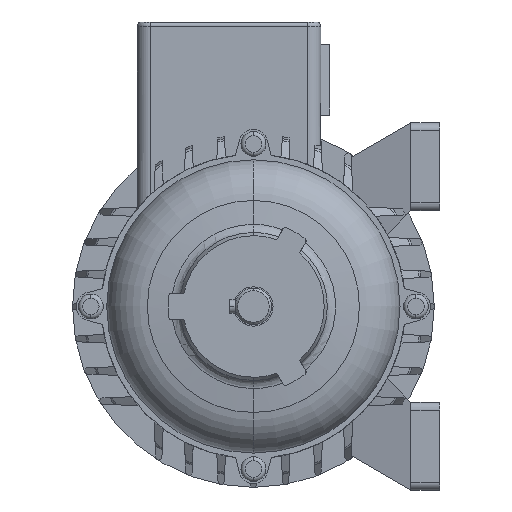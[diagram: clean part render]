
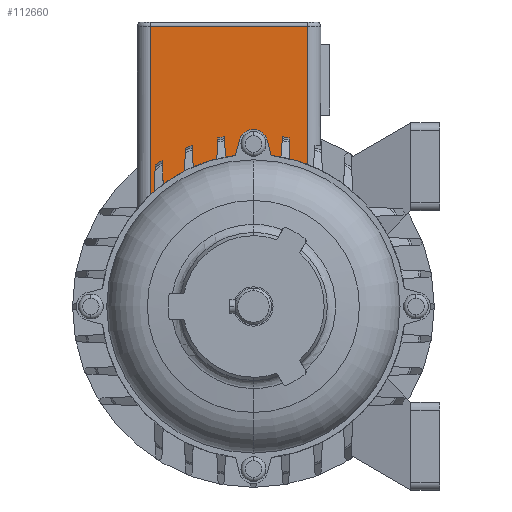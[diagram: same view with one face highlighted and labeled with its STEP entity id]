
A CAD part, left-side view. The second image highlights one B-rep face of the part: STEP entity #112660.
In plain terms, the highlighted planar face has unit normal (-1, 0, 0) as drawn and (0, 0, -1) by its records, which use the part's own axes.
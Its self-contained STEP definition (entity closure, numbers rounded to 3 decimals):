
#38200=CARTESIAN_POINT('',(-1399.744,-477.566,
13.8));
#38210=VERTEX_POINT('',#38200);
#38260=CARTESIAN_POINT('',(0.,-102.506,13.8));
#38270=DIRECTION('',(0.966,0.259,
0.));
#38280=VECTOR('',#38270,1.);
#38290=LINE('',#38260,#38280);
#38300=CARTESIAN_POINT('',(-1393.891,-475.998,
13.8));
#38310=VERTEX_POINT('',#38300);
#38320=EDGE_CURVE('',#38210,#38310,#38290,.T.);
#38600=CARTESIAN_POINT('',(-1413.391,-508.54,
13.8));
#38610=VERTEX_POINT('',#38600);
#38790=CARTESIAN_POINT('',(-1410.653,-505.107,
13.8));
#38800=VERTEX_POINT('',#38790);
#38830=CARTESIAN_POINT('',(-1457.334,-470.685,
13.8));
#38840=DIRECTION('',(0.,0.,-1.));
#38850=DIRECTION('',(-1.,0.,
0.));
#38860=AXIS2_PLACEMENT_3D('',#38830,#38840,#38850);
#38870=CIRCLE('',#38860,58.);
#38880=CARTESIAN_POINT('',(-1405.634,-496.974,
13.8));
#38890=VERTEX_POINT('',#38880);
#38900=EDGE_CURVE('',#38890,#38800,#38870,.T.);
#39130=CARTESIAN_POINT('',(-1404.081,-493.664,
13.8));
#39140=VERTEX_POINT('',#39130);
#39170=CARTESIAN_POINT('',(-1401.035,-484.626,
13.8));
#39180=VERTEX_POINT('',#39170);
#39190=EDGE_CURVE('',#39180,#39140,#38870,.T.);
#39420=CARTESIAN_POINT('',(-1400.328,-481.375,
13.8));
#39430=VERTEX_POINT('',#39420);
#39460=EDGE_CURVE('',#38210,#39430,#38870,.T.);
#41000=CARTESIAN_POINT('',(-1414.679,-509.985,
13.8));
#41010=VERTEX_POINT('',#41000);
#41040=EDGE_CURVE('',#38610,#41010,#38870,.T.);
#109750=CARTESIAN_POINT('',(-1399.735,-463.875,
13.8));
#109760=VERTEX_POINT('',#109750);
#109790=CARTESIAN_POINT('',(-1457.334,-470.685,
13.8));
#109800=DIRECTION('',(0.,0.,-1.));
#109810=DIRECTION('',(1.,0.,
0.));
#109820=AXIS2_PLACEMENT_3D('',#109790,#109800,#109810);
#109830=CIRCLE('',#109820,58.);
#109840=CARTESIAN_POINT('',(-1400.328,-459.996,
13.8));
#109850=VERTEX_POINT('',#109840);
#109860=EDGE_CURVE('',#109850,#109760,#109830,.T.);
#110090=CARTESIAN_POINT('',(-1401.035,-456.744,
13.8));
#110100=VERTEX_POINT('',#110090);
#110130=CARTESIAN_POINT('',(-1403.154,-449.985,
13.8));
#110140=VERTEX_POINT('',#110130);
#110150=EDGE_CURVE('',#110140,#110100,#109830,.T.);
#111190=CARTESIAN_POINT('',(-1348.834,-509.988,
13.8));
#111200=DIRECTION('',(0.,0.,-1.));
#111210=DIRECTION('',(0.,-1.,0.));
#111220=AXIS2_PLACEMENT_3D('',#111190,#111200,#111210);
#111230=PLANE('',#111220);
#111240=ORIENTED_EDGE('',*,*,#110150,.F.);
#111250=CARTESIAN_POINT('',(0.,-517.915,13.8));
#111260=DIRECTION('',(-0.999,0.044,
0.));
#111270=VECTOR('',#111260,1.);
#111280=LINE('',#111250,#111270);
#111290=CARTESIAN_POINT('',(-1393.062,-457.092,
13.8));
#111300=VERTEX_POINT('',#111290);
#111310=EDGE_CURVE('',#111300,#110100,#111280,.T.);
#111320=ORIENTED_EDGE('',*,*,#111310,.T.);
#111330=CARTESIAN_POINT('',(-1457.334,-470.685,
13.8));
#111340=DIRECTION('',(0.,0.,1.));
#111350=DIRECTION('',(0.922,0.386,
0.));
#111360=AXIS2_PLACEMENT_3D('',#111330,#111340,#111350);
#111370=CIRCLE('',#111360,65.694);
#111380=CARTESIAN_POINT('',(-1392.573,-459.657,
13.8));
#111390=VERTEX_POINT('',#111380);
#111400=EDGE_CURVE('',#111390,#111300,#111370,.T.);
#111410=ORIENTED_EDGE('',*,*,#111400,.T.);
#111420=CARTESIAN_POINT('',(0.,-398.856,13.8));
#111430=DIRECTION('',(0.999,0.044,
0.));
#111440=VECTOR('',#111430,1.);
#111450=LINE('',#111420,#111440);
#111460=EDGE_CURVE('',#109850,#111390,#111450,.T.);
#111470=ORIENTED_EDGE('',*,*,#111460,.T.);
#111480=ORIENTED_EDGE('',*,*,#109860,.F.);
#111490=CARTESIAN_POINT('',(0.,-822.49,13.8));
#111500=DIRECTION('',(-0.969,0.248,
0.));
#111510=VECTOR('',#111500,1.);
#111520=LINE('',#111490,#111510);
#111530=CARTESIAN_POINT('',(-1393.891,-465.373,
13.8));
#111540=VERTEX_POINT('',#111530);
#111550=EDGE_CURVE('',#111540,#109760,#111520,.T.);
#111560=ORIENTED_EDGE('',*,*,#111550,.T.);
#111570=CARTESIAN_POINT('',(-1395.314,-470.685,
13.8));
#111580=DIRECTION('',(0.,0.,-1.));
#111590=DIRECTION('',(-1.,0.,
0.));
#111600=AXIS2_PLACEMENT_3D('',#111570,#111580,#111590);
#111610=CIRCLE('',#111600,5.5);
#111620=CARTESIAN_POINT('',(-1389.814,-470.685,
13.8));
#111630=VERTEX_POINT('',#111620);
#111640=EDGE_CURVE('',#111540,#111630,#111610,.T.);
#111650=ORIENTED_EDGE('',*,*,#111640,.F.);
#111660=EDGE_CURVE('',#111630,#38310,#111610,.T.);
#111670=ORIENTED_EDGE('',*,*,#111660,.F.);
#111680=ORIENTED_EDGE('',*,*,#38320,.T.);
#111690=ORIENTED_EDGE('',*,*,#39460,.F.);
#111700=CARTESIAN_POINT('',(0.,-542.515,13.8));
#111710=DIRECTION('',(-0.999,0.044,
0.));
#111720=VECTOR('',#111710,1.);
#111730=LINE('',#111700,#111720);
#111740=CARTESIAN_POINT('',(-1392.573,-481.713,
13.8));
#111750=VERTEX_POINT('',#111740);
#111760=EDGE_CURVE('',#111750,#39430,#111730,.T.);
#111770=ORIENTED_EDGE('',*,*,#111760,.T.);
#111780=CARTESIAN_POINT('',(-1457.334,-470.685,
13.8));
#111790=DIRECTION('',(0.,0.,1.));
#111800=DIRECTION('',(0.922,0.386,
0.));
#111810=AXIS2_PLACEMENT_3D('',#111780,#111790,#111800);
#111820=CIRCLE('',#111810,65.694);
#111830=CARTESIAN_POINT('',(-1393.062,-484.278,
13.8));
#111840=VERTEX_POINT('',#111830);
#111850=EDGE_CURVE('',#111840,#111750,#111820,.T.);
#111860=ORIENTED_EDGE('',*,*,#111850,.T.);
#111870=CARTESIAN_POINT('',(0.,-423.457,13.8));
#111880=DIRECTION('',(0.999,0.044,
0.));
#111890=VECTOR('',#111880,1.);
#111900=LINE('',#111870,#111890);
#111910=EDGE_CURVE('',#39180,#111840,#111900,.T.);
#111920=ORIENTED_EDGE('',*,*,#111910,.T.);
#111930=ORIENTED_EDGE('',*,*,#39190,.F.);
#111940=CARTESIAN_POINT('',(0.,-554.972,13.8));
#111950=DIRECTION('',(-0.999,0.044,
0.));
#111960=VECTOR('',#111950,1.);
#111970=LINE('',#111940,#111960);
#111980=CARTESIAN_POINT('',(-1395.925,-494.02,
13.8));
#111990=VERTEX_POINT('',#111980);
#112000=EDGE_CURVE('',#111990,#39140,#111970,.T.);
#112010=ORIENTED_EDGE('',*,*,#112000,.T.);
#112020=CARTESIAN_POINT('',(-1457.334,-470.685,
13.8));
#112030=DIRECTION('',(0.,0.,1.));
#112040=DIRECTION('',(0.922,0.386,
0.));
#112050=AXIS2_PLACEMENT_3D('',#112020,#112030,#112040);
#112060=CIRCLE('',#112050,65.694);
#112070=CARTESIAN_POINT('',(-1396.966,-496.595,
13.8));
#112080=VERTEX_POINT('',#112070);
#112090=EDGE_CURVE('',#112080,#111990,#112060,.T.);
#112100=ORIENTED_EDGE('',*,*,#112090,.T.);
#112110=CARTESIAN_POINT('',(0.,-435.604,13.8));
#112120=DIRECTION('',(0.999,0.044,
0.));
#112130=VECTOR('',#112120,1.);
#112140=LINE('',#112110,#112130);
#112150=EDGE_CURVE('',#38890,#112080,#112140,.T.);
#112160=ORIENTED_EDGE('',*,*,#112150,.T.);
#112170=ORIENTED_EDGE('',*,*,#38900,.F.);
#112180=CARTESIAN_POINT('',(0.,-566.939,13.8));
#112190=DIRECTION('',(-0.999,0.044,
0.));
#112200=VECTOR('',#112190,1.);
#112210=LINE('',#112180,#112200);
#112220=CARTESIAN_POINT('',(-1401.626,-505.503,
13.8));
#112230=VERTEX_POINT('',#112220);
#112240=EDGE_CURVE('',#112230,#38800,#112210,.T.);
#112250=ORIENTED_EDGE('',*,*,#112240,.T.);
#112260=CARTESIAN_POINT('',(-1457.334,-470.685,
13.8));
#112270=DIRECTION('',(0.,0.,1.));
#112280=DIRECTION('',(0.922,0.386,
0.));
#112290=AXIS2_PLACEMENT_3D('',#112260,#112270,#112280);
#112300=CIRCLE('',#112290,65.694);
#112310=CARTESIAN_POINT('',(-1403.336,-508.099,
13.8));
#112320=VERTEX_POINT('',#112310);
#112330=EDGE_CURVE('',#112320,#112230,#112300,.T.);
#112340=ORIENTED_EDGE('',*,*,#112330,.T.);
#112350=CARTESIAN_POINT('',(0.,-446.625,13.8));
#112360=DIRECTION('',(0.999,0.044,
0.));
#112370=VECTOR('',#112360,1.);
#112380=LINE('',#112350,#112370);
#112390=EDGE_CURVE('',#38610,#112320,#112380,.T.);
#112400=ORIENTED_EDGE('',*,*,#112390,.T.);
#112410=ORIENTED_EDGE('',*,*,#41040,.F.);
#112420=CARTESIAN_POINT('',(0.,-509.985,
13.8));
#112430=DIRECTION('',(1.,0.,0.));
#112440=VECTOR('',#112430,1.);
#112450=LINE('',#112420,#112440);
#112460=CARTESIAN_POINT('',(-1350.434,-509.985,
13.8));
#112470=VERTEX_POINT('',#112460);
#112480=EDGE_CURVE('',#41010,#112470,#112450,.T.);
#112490=ORIENTED_EDGE('',*,*,#112480,.F.);
#112500=CARTESIAN_POINT('',(-1350.434,0.,
13.8));
#112510=DIRECTION('',(0.,-1.,0.));
#112520=VECTOR('',#112510,1.);
#112530=LINE('',#112500,#112520);
#112540=CARTESIAN_POINT('',(-1350.434,-449.985,
13.8));
#112550=VERTEX_POINT('',#112540);
#112560=EDGE_CURVE('',#112550,#112470,#112530,.T.);
#112570=ORIENTED_EDGE('',*,*,#112560,.T.);
#112580=CARTESIAN_POINT('',(0.,-449.985,
13.8));
#112590=DIRECTION('',(-1.,0.,0.));
#112600=VECTOR('',#112590,1.);
#112610=LINE('',#112580,#112600);
#112620=EDGE_CURVE('',#112550,#110140,#112610,.T.);
#112630=ORIENTED_EDGE('',*,*,#112620,.F.);
#112640=EDGE_LOOP('',(#112630,#112570,#112490,#112410,#112400,#112340,
#112250,#112170,#112160,#112100,#112010,#111930,#111920,#111860,#111770,
#111690,#111680,#111670,#111650,#111560,#111480,#111470,#111410,#111320,
#111240));
#112650=FACE_OUTER_BOUND('',#112640,.T.);
#112660=ADVANCED_FACE('',(#112650),#111230,.T.);
